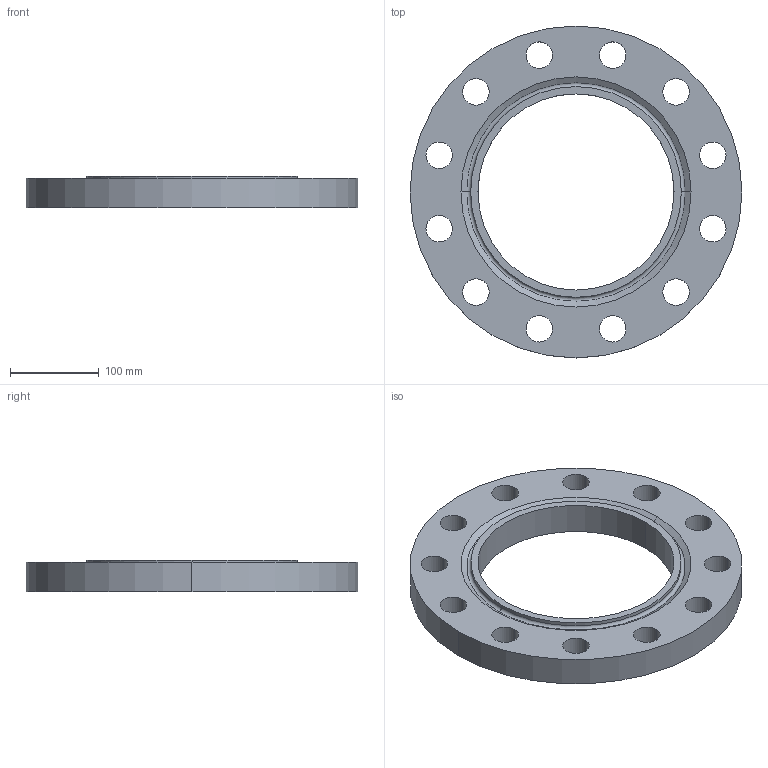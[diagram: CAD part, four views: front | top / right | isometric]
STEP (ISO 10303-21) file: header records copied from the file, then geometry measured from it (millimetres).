
FILE_DESCRIPTION (( 'STEP AP214' ), '1' );
FILE_NAME ('PN40 DN200 Type 01 - Type H Face.STEP', '2019-01-05T02:27:31', ( '' ), ( '' ), 'SwSTEP 2.0', 'SolidWorks 2019', '' );
FILE_SCHEMA (( 'AUTOMOTIVE_DESIGN' ));
Length unit declared in the file: millimetre
Products named in the file (1): PN40 DN200 Type 01 - Type H Face
Bounding box: 375 x 375 x 36 mm (x, y, z)
Volume: 2115475.3 mm3; surface area: 234539.7 mm2
Topology: 1 solids, 1 shells, 37 faces, 98 edges, 64 vertices
Faces by surface type: cylinder 30, plane 3, torus 2, cone 2
Entity records: 1272 total; most frequent: DIRECTION 240, CARTESIAN_POINT 200, ORIENTED_EDGE 196, AXIS2_PLACEMENT_3D 104, EDGE_CURVE 98, CIRCLE 66, VERTEX_POINT 64, EDGE_LOOP 64
